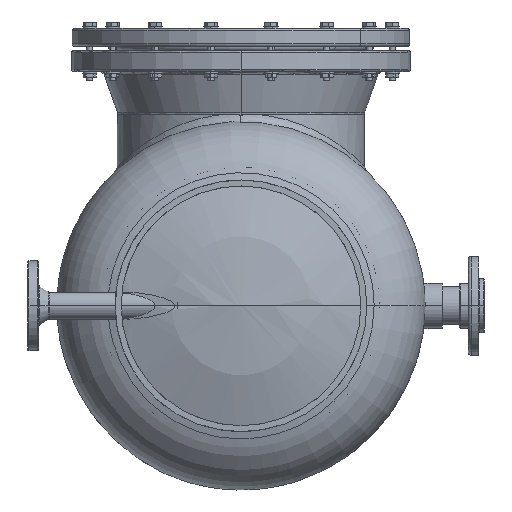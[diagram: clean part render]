
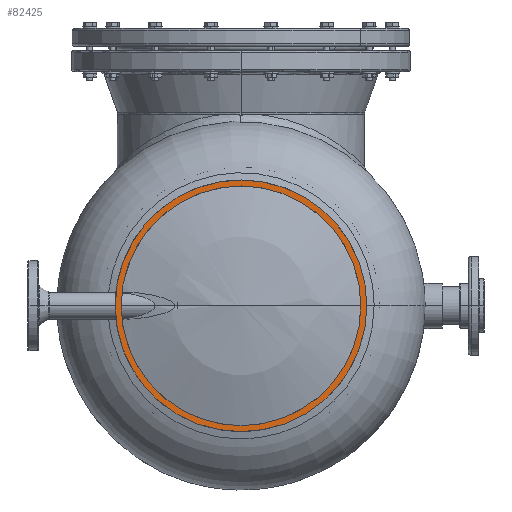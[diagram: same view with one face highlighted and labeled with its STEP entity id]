
A CAD part, front view. The second image highlights one B-rep face of the part: STEP entity #82425.
In plain terms, the highlighted planar face has unit normal (0, -1, 0).
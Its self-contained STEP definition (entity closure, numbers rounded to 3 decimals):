
#3374 = AXIS2_PLACEMENT_3D ( 'NONE', #22871, #50274, #72398 ) ;
#4585 = PLANE ( 'NONE',  #32807 ) ;
#5600 = EDGE_CURVE ( 'NONE', #16491, #56804, #62150, .T. ) ;
#5991 = DIRECTION ( 'NONE',  ( 0., 1., 0. ) ) ;
#8893 = DIRECTION ( 'NONE',  ( 0., -1., 0. ) ) ;
#9684 = DIRECTION ( 'NONE',  ( 0., 1., 0. ) ) ;
#10492 = CIRCLE ( 'NONE', #49677, 200. ) ;
#16491 = VERTEX_POINT ( 'NONE', #52064 ) ;
#22871 = CARTESIAN_POINT ( 'NONE',  ( 210., 0., -210.03 ) ) ;
#23844 = EDGE_LOOP ( 'NONE', ( #73551, #45641 ) ) ;
#27552 = DIRECTION ( 'NONE',  ( 1., 0., 0. ) ) ;
#28034 = DIRECTION ( 'NONE',  ( 0., 1., 0. ) ) ;
#28643 = AXIS2_PLACEMENT_3D ( 'NONE', #53578, #9684, #38458 ) ;
#31372 = EDGE_CURVE ( 'NONE', #60060, #34705, #69329, .T. ) ;
#32807 = AXIS2_PLACEMENT_3D ( 'NONE', #42779, #5991, #36601 ) ;
#34705 = VERTEX_POINT ( 'NONE', #42304 ) ;
#36601 = DIRECTION ( 'NONE',  ( 1., 0., 0. ) ) ;
#38458 = DIRECTION ( 'NONE',  ( 1., 0., 0. ) ) ;
#39134 = CARTESIAN_POINT ( 'NONE',  ( 420., 0., -210.03 ) ) ;
#41875 = FACE_OUTER_BOUND ( 'NONE', #56387, .T. ) ;
#42304 = CARTESIAN_POINT ( 'NONE',  ( 0., 0., -210.03 ) ) ;
#42779 = CARTESIAN_POINT ( 'NONE',  ( 210., 0., -210.03 ) ) ;
#43691 = ORIENTED_EDGE ( 'NONE', *, *, #81597, .T. ) ;
#45641 = ORIENTED_EDGE ( 'NONE', *, *, #73869, .T. ) ;
#49677 = AXIS2_PLACEMENT_3D ( 'NONE', #55468, #28034, #27552 ) ;
#50274 = DIRECTION ( 'NONE',  ( 0., -1., 0. ) ) ;
#52064 = CARTESIAN_POINT ( 'NONE',  ( 410., 0., -210.03 ) ) ;
#53578 = CARTESIAN_POINT ( 'NONE',  ( 210., 0., -210.03 ) ) ;
#55468 = CARTESIAN_POINT ( 'NONE',  ( 210., 0., -210.03 ) ) ;
#56387 = EDGE_LOOP ( 'NONE', ( #89318, #43691 ) ) ;
#56804 = VERTEX_POINT ( 'NONE', #72567 ) ;
#60060 = VERTEX_POINT ( 'NONE', #39134 ) ;
#62150 = CIRCLE ( 'NONE', #3374, 200. ) ;
#69217 = FACE_BOUND ( 'NONE', #23844, .T. ) ;
#69329 = CIRCLE ( 'NONE', #28643, 210. ) ;
#72398 = DIRECTION ( 'NONE',  ( 1., 0., 0. ) ) ;
#72567 = CARTESIAN_POINT ( 'NONE',  ( 10., 0., -210.03 ) ) ;
#73031 = DIRECTION ( 'NONE',  ( 1., 0., 0. ) ) ;
#73498 = CARTESIAN_POINT ( 'NONE',  ( 210., 0., -210.03 ) ) ;
#73551 = ORIENTED_EDGE ( 'NONE', *, *, #5600, .F. ) ;
#73869 = EDGE_CURVE ( 'NONE', #16491, #56804, #10492, .T. ) ;
#81597 = EDGE_CURVE ( 'NONE', #60060, #34705, #82803, .T. ) ;
#82425 = ADVANCED_FACE ( 'NONE', ( #41875, #69217 ), #4585, .F. ) ;
#82803 = CIRCLE ( 'NONE', #84298, 210. ) ;
#84298 = AXIS2_PLACEMENT_3D ( 'NONE', #73498, #8893, #73031 ) ;
#89318 = ORIENTED_EDGE ( 'NONE', *, *, #31372, .F. ) ;
